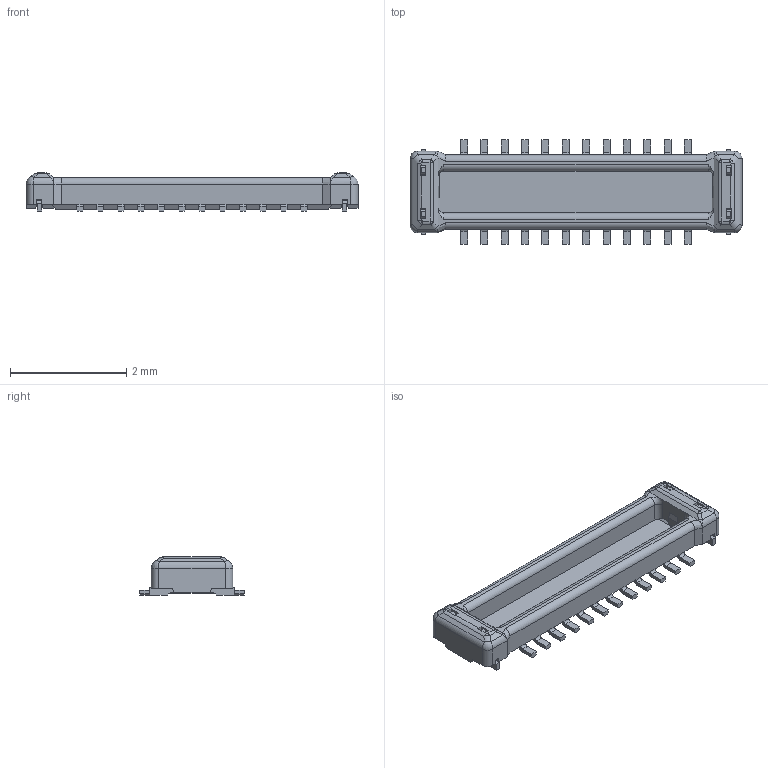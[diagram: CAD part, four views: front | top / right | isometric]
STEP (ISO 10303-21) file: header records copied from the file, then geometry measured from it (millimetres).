
FILE_DESCRIPTION(('CATIA V5 STEP Exchange'),'2;1');
FILE_NAME('D:\(編集厳禁)\3D 備用 (編集厳禁)\3D 備用5xxx拘束済み\5843-李-2 PIN変更 ●\作業用\8.30.13\10_5843_024_022_829_+.stp','2013-08-30T05:50:10+00:00',('none'),('none'),'CATIA Version 5 Release 19 SP 8 (IN-10)','CATIA V5 STEP AP214','none');
FILE_SCHEMA(('AUTOMOTIVE_DESIGN { 1 0 10303 214 1 1 1 1 }'));
Length unit declared in the file: millimetre
Products named in the file (1): Part2
Bounding box: 5.71 x 1.8 x 0.66 mm (x, y, z)
Volume: 2.5 mm3; surface area: 32.5 mm2
Topology: 1 solids, 1 shells, 506 faces, 1386 edges, 874 vertices
Faces by surface type: plane 340, cylinder 86, cone 48, bspline 24, extrusion 4, torus 4
Entity records: 20520 total; most frequent: CARTESIAN_POINT 8923, ORIENTED_EDGE 2772, DIRECTION 1796, EDGE_CURVE 1386, VECTOR 1098, LINE 1094, VERTEX_POINT 874, EDGE_LOOP 510
